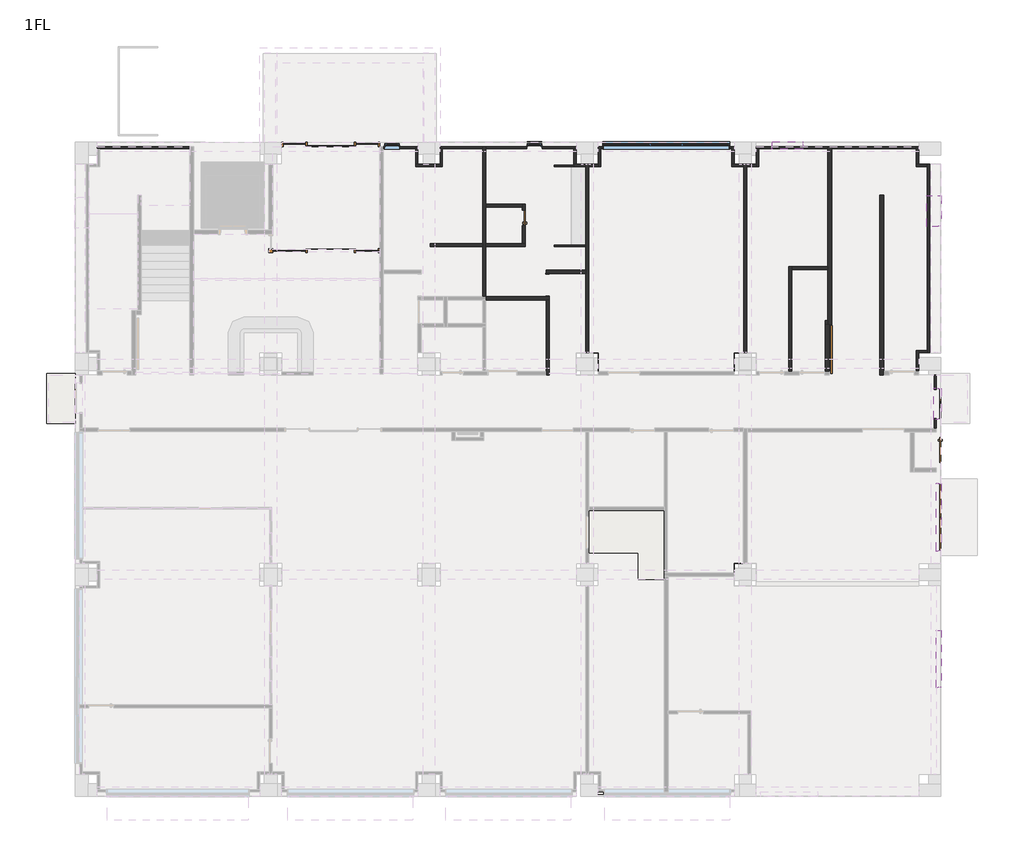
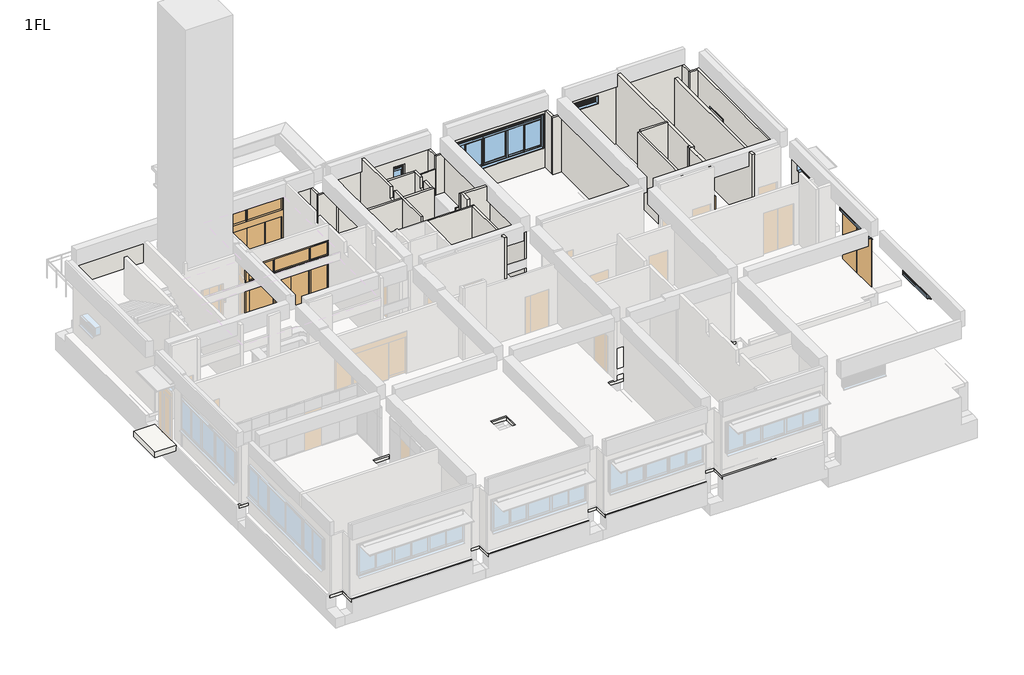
# One storey, part 3 of 7: 39 walls, 8 doors, 8 windows, 2 slabs.
"""IFC4 building model written with IfcOpenShell, lengths in millimetres."""

from ifc_helpers import new_model, si_unit, frame, origin, origin_with_axes, place, context, project, spatial, polyline, outline, extrude, faceted_brep, transform, mapped, element, save
from components import door_1cafa6bb, door_cb1f44da, door_8a3642f0, door_14d6dc4f, door_377da531, door_bdeb8628, sd1a_41ed0b53, sd5_d24b2fea, ag_01_14c91b01, ag_03_a886fbff, ag_04_25b0d088, ag_04_e8160d57, aw4_4580bdda, aw8_d00d551c, aw8_1742ed5c

model = new_model("IFC4")

# Units and contexts
model_context = context("Model", 3, world=origin())
ifc_project = project(units=[si_unit("LENGTHUNIT", "METRE", prefix="MILLI")], contexts=[model_context])

# Site, building, storey
site = spatial("IfcSite", under=ifc_project)
building = spatial("IfcBuilding", under=site)
storey = spatial("IfcBuildingStorey", under=building, Name="1FL", Elevation=0.0)

# Doors
placement = place(None, origin())
door_shape = door_1cafa6bb(model_context)
element("IfcDoor", 1, ObjectType="営_片開き扉 : SD6 950*2685", at=placement, inside=storey, context=model_context, shape_type="MappedRepresentation", body=[
    mapped(door_shape, transform((32335.0, 12730.0, 0.0), x_axis=(0.0, -1.0, 0.0), y_axis=(1.0, 0.0, 0.0), z_axis=(0.0, 0.0, 1.0))),
])
door_2_shape = door_cb1f44da(model_context)
element("IfcDoor", 2, ObjectType="営_片開き扉 : SD7 600*2000", at=placement, inside=storey, context=model_context, shape_type="MappedRepresentation", body=[
    mapped(door_2_shape, transform((16600.0, 21540.0, 0.0), x_axis=(0.0, 1.0, 0.0), y_axis=(-1.0, 0.0, 0.0), z_axis=(0.0, 0.0, 1.0))),
])
door_3_shape = door_8a3642f0(model_context)
element("IfcDoor", 3, ObjectType="営_両開き扉 : SD2 2500*2585", at=placement, inside=storey, context=model_context, shape_type="MappedRepresentation", body=[
    mapped(door_3_shape, transform((32335.0, 10180.0, 0.0), x_axis=(0.0, -1.0, 0.0), y_axis=(1.0, 0.0, 0.0), z_axis=(0.0, 0.0, 1.0))),
])
door_4_shape = door_14d6dc4f(model_context)
element("IfcDoor", 4, ObjectType="営_三方枠 : S1_850*2000", at=placement, inside=storey, context=model_context, shape_type="MappedRepresentation", body=[
    mapped(door_4_shape, transform((17500.0, 18990.25, 0.0), x_axis=(0.0, 1.0, 0.0), y_axis=(-1.0, 0.0, 0.0), z_axis=(0.0, 0.0, 1.0))),
])
door_5_shape = door_377da531(model_context)
element("IfcDoor", 5, ObjectType="営_自動ドア 両引き+ランマ : SSD1a 3600*3100", at=placement, inside=storey, context=model_context, shape_type="MappedRepresentation", body=[
    mapped(door_5_shape, transform((9280.0, 24325.0, 0.0), x_axis=(-1.0, 0.0, 0.0), y_axis=(0.0, -1.0, 0.0), z_axis=(0.0, 0.0, 1.0))),
])
door_6_shape = door_bdeb8628(model_context)
element("IfcDoor", 6, ObjectType="営_自動ドア 両引き+ランマ1b : SSD1b 4005*3100", at=placement, inside=storey, context=model_context, shape_type="MappedRepresentation", body=[
    mapped(door_6_shape, transform((9280.0, 20310.0, 0.0), x_axis=(1.0, 0.0, 0.0), y_axis=(0.0, 1.0, 0.0), z_axis=(0.0, 0.0, 1.0))),
])
sd1a_shape = sd1a_41ed0b53(model_context)
element("IfcDoor", 7, ObjectType="営_親子扉+ランマ : SD1a", at=placement, inside=storey, context=model_context, shape_type="MappedRepresentation", body=[
    mapped(sd1a_shape, transform((32335.0, 14480.0, 0.0), x_axis=(0.0, -1.0, 0.0), y_axis=(1.0, 0.0, 0.0), z_axis=(0.0, 0.0, 1.0))),
])
sd5_shape = sd5_d24b2fea(model_context)
element("IfcDoor", 8, ObjectType="営_随閉扉 B階段 1F : SD5", at=placement, inside=storey, context=model_context, shape_type="MappedRepresentation", body=[
    mapped(sd5_shape, transform((28100.0, 16540.0, 0.0), x_axis=(0.0, -1.0, 0.0), y_axis=(1.0, 0.0, 0.0), z_axis=(0.0, 0.0, 1.0))),
])

# Slabs
element("IfcSlab", 9, ObjectType="(外床)エントランス 300", at=placement, inside=storey, context=model_context, shape_type="SweptSolid", body=[
    extrude(outline(polyline([(-1505.0, 15630.0), (-420.0, 15630.0), (-420.0, 13730.0), (-1505.0, 13730.0), (-1505.0, 15630.0)])), frame((0.0, 0.0, -300.0), z_axis=(0.0, 0.0, 1.0), x_axis=(1.0, 0.0, 0.0)), (0.0, 0.0, 1.0), 300.0),
])
element("IfcSlab", 10, ObjectType="(RC)150", at=placement, inside=storey, context=model_context, shape_type="Brep", body=[
    faceted_brep([(19420.0, 15640.0, -250.0), (19420.0, 15755.0, -250.0), (19420.0, 16225.0, -250.0), (19420.0, 16420.0, -250.0), (19225.0, 16420.0, -250.0), (19000.0, 16420.0, -250.0), (19000.0, 23580.0, -250.0), (19225.0, 23580.0, -250.0), (19420.0, 23580.0, -250.0), (19420.0, 23950.0, -250.0), (19420.0, 24250.0, -250.0), (24580.0, 24250.0, -250.0), (24580.0, 23950.0, -250.0), (24580.0, 23580.0, -250.0), (24775.0, 23580.0, -250.0), (25000.0, 23580.0, -250.0), (25000.0, 16420.0, -250.0), (24775.0, 16420.0, -250.0), (24580.0, 16420.0, -250.0), (24580.0, 16225.0, -250.0), (24580.0, 15755.0, -250.0), (24580.0, 15640.0, -250.0), (19420.0, 16420.0, -100.0), (19420.0, 15640.0, -100.0), (24580.0, 15640.0, -100.0), (24580.0, 16420.0, -100.0), (24775.0, 16420.0, -100.0), (25000.0, 16420.0, -100.0), (25000.0, 23580.0, -100.0), (24775.0, 23580.0, -100.0), (24580.0, 23580.0, -100.0), (24580.0, 23950.0, -100.0), (24580.0, 24250.0, -100.0), (19420.0, 24250.0, -100.0), (19420.0, 23950.0, -100.0), (19420.0, 23580.0, -100.0), (19225.0, 23580.0, -100.0), (19000.0, 23580.0, -100.0), (19000.0, 16420.0, -100.0), (19225.0, 16420.0, -100.0), (25000.0, 16420.0, -160.0), (25000.0, 23580.0, -160.0), (19420.0, 15640.0, -160.0), (24580.0, 15640.0, -160.0), (19000.0, 16420.0, -160.0), (19000.0, 23580.0, -160.0)], [[[0, 1, 2, 3, 4, 5, 6, 7, 8, 9, 10, 11, 12, 13, 14, 15, 16, 17, 18, 19, 20, 21]], [[22, 23, 24, 25, 26, 27, 28, 29, 30, 31, 32, 33, 34, 35, 36, 37, 38, 39]], [[27, 40, 16, 15, 41, 28]], [[23, 42, 0, 21, 43, 24]], [[5, 44, 38, 37, 45, 6]], [[10, 33, 32, 11]], [[22, 3, 2, 1, 0, 42, 23]], [[3, 22, 39, 38, 44, 5, 4]], [[18, 25, 24, 43, 21, 20, 19]], [[25, 18, 17, 16, 40, 27, 26]], [[8, 35, 34, 33, 10, 9]], [[35, 8, 7, 6, 45, 37, 36]], [[13, 30, 29, 28, 41, 15, 14]], [[30, 13, 12, 11, 32, 31]]]),
    faceted_brep([(19000.0, 13500.0, -250.0), (19245.0, 13500.0, -250.0), (24755.0, 13500.0, -250.0), (25175.0, 13500.0, -250.0), (25175.0, 8420.0, -250.0), (24755.0, 8420.0, -250.0), (24580.0, 8420.0, -250.0), (24580.0, 8245.0, -250.0), (24580.0, 7825.0, -250.0), (22175.0, 7825.0, -250.0), (22175.0, 7775.0, -250.0), (22175.0, 5508.0, -250.0), (22175.0, 5158.0, -250.0), (22175.0, 2835.0, -250.0), (22175.0, 2485.0, -250.0), (22175.0, 50.0, -250.0), (22175.0, -335.0, -250.0), (19420.0, -335.0, -250.0), (19420.0, 50.0, -250.0), (19420.0, 420.0, -250.0), (19225.0, 420.0, -250.0), (18755.0, 420.0, -250.0), (18580.0, 420.0, -250.0), (18580.0, 70.0, -250.0), (18580.0, -335.0, -250.0), (13420.0, -335.0, -250.0), (13420.0, 70.0, -250.0), (13420.0, 420.0, -250.0), (13245.0, 420.0, -250.0), (12755.0, 420.0, -250.0), (12580.0, 420.0, -250.0), (12580.0, 70.0, -250.0), (12580.0, -335.0, -250.0), (7420.0, -335.0, -250.0), (7420.0, 70.0, -250.0), (7420.0, 420.0, -250.0), (7245.0, 420.0, -250.0), (6755.0, 420.0, -250.0), (6580.0, 420.0, -250.0), (6580.0, 70.0, -250.0), (6580.0, -335.0, -250.0), (420.0, -335.0, -250.0), (420.0, 70.0, -250.0), (420.0, 420.0, -250.0), (70.0, 420.0, -250.0), (-250.0, 420.0, -250.0), (-250.0, 7580.0, -250.0), (70.0, 7580.0, -250.0), (420.0, 7580.0, -250.0), (420.0, 7755.0, -250.0), (420.0, 8245.0, -250.0), (420.0, 8420.0, -250.0), (70.0, 8420.0, -250.0), (-250.0, 8420.0, -250.0), (-250.0, 13500.0, -250.0), (70.0, 13500.0, -250.0), (6755.0, 13500.0, -250.0), (7245.0, 13500.0, -250.0), (12755.0, 13500.0, -250.0), (13245.0, 13500.0, -250.0), (18755.0, 13500.0, -250.0), (7420.0, 7580.0, -250.0), (7420.0, 7755.0, -250.0), (7420.0, 8245.0, -250.0), (7420.0, 8420.0, -250.0), (7245.0, 8420.0, -250.0), (6755.0, 8420.0, -250.0), (6580.0, 8420.0, -250.0), (6580.0, 8245.0, -250.0), (6580.0, 7755.0, -250.0), (6580.0, 7580.0, -250.0), (6755.0, 7580.0, -250.0), (7245.0, 7580.0, -250.0), (13420.0, 7580.0, -250.0), (13420.0, 7755.0, -250.0), (13420.0, 8245.0, -250.0), (13420.0, 8420.0, -250.0), (13245.0, 8420.0, -250.0), (12755.0, 8420.0, -250.0), (12580.0, 8420.0, -250.0), (12580.0, 8245.0, -250.0), (12580.0, 7755.0, -250.0), (12580.0, 7580.0, -250.0), (12755.0, 7580.0, -250.0), (13245.0, 7580.0, -250.0), (19420.0, 7580.0, -250.0), (19420.0, 7775.0, -250.0), (19420.0, 8245.0, -250.0), (19420.0, 8420.0, -250.0), (19245.0, 8420.0, -250.0), (18755.0, 8420.0, -250.0), (18580.0, 8420.0, -250.0), (18580.0, 8245.0, -250.0), (18580.0, 7755.0, -250.0), (18580.0, 7580.0, -250.0), (18755.0, 7580.0, -250.0), (19225.0, 7580.0, -250.0), (25175.0, 13500.0, -100.0), (25000.0, 13500.0, -100.0), (19000.0, 13500.0, -100.0), (-250.0, 13500.0, -100.0), (-250.0, 8420.0, -100.0), (420.0, 8420.0, -100.0), (420.0, 7580.0, -100.0), (-250.0, 7580.0, -100.0), (-250.0, 420.0, -100.0), (420.0, 420.0, -100.0), (420.0, -335.0, -100.0), (6580.0, -335.0, -100.0), (6580.0, 420.0, -100.0), (7420.0, 420.0, -100.0), (7420.0, -335.0, -100.0), (12580.0, -335.0, -100.0), (12580.0, 420.0, -100.0), (13420.0, 420.0, -100.0), (13420.0, -335.0, -100.0), (18580.0, -335.0, -100.0), (18580.0, 420.0, -100.0), (18755.0, 420.0, -100.0), (19225.0, 420.0, -100.0), (19420.0, 420.0, -100.0), (19420.0, -335.0, -100.0), (22175.0, -335.0, -100.0), (22175.0, -250.0, -100.0), (22175.0, 7825.0, -100.0), (24580.0, 7825.0, -100.0), (24580.0, 8000.0, -100.0), (24580.0, 8420.0, -100.0), (25000.0, 8420.0, -100.0), (25175.0, 8420.0, -100.0), (7420.0, 8420.0, -100.0), (7420.0, 7580.0, -100.0), (6580.0, 7580.0, -100.0), (6580.0, 8420.0, -100.0), (13420.0, 8420.0, -100.0), (13420.0, 7580.0, -100.0), (12580.0, 7580.0, -100.0), (12580.0, 8420.0, -100.0), (19420.0, 8420.0, -100.0), (19420.0, 7580.0, -100.0), (19225.0, 7580.0, -100.0), (18755.0, 7580.0, -100.0), (18580.0, 7580.0, -100.0), (18580.0, 8420.0, -100.0), (25175.0, 13500.0, -160.0), (25175.0, 8420.0, -160.0), (22175.0, 7825.0, -160.0), (24580.0, 7825.0, -160.0), (-250.0, 13500.0, -160.0)], [[[0, 1, 2, 3, 4, 5, 6, 7, 8, 9, 10, 11, 12, 13, 14, 15, 16, 17, 18, 19, 20, 21, 22, 23, 24, 25, 26, 27, 28, 29, 30, 31, 32, 33, 34, 35, 36, 37, 38, 39, 40, 41, 42, 43, 44, 45, 46, 47, 48, 49, 50, 51, 52, 53, 54, 55, 56, 57, 58, 59, 60], [61, 62, 63, 64, 65, 66, 67, 68, 69, 70, 71, 72], [73, 74, 75, 76, 77, 78, 79, 80, 81, 82, 83, 84], [85, 86, 87, 88, 89, 90, 91, 92, 93, 94, 95, 96]], [[97, 98, 99, 100, 101, 102, 103, 104, 105, 106, 107, 108, 109, 110, 111, 112, 113, 114, 115, 116, 117, 118, 119, 120, 121, 122, 123, 124, 125, 126, 127, 128, 129], [130, 131, 132, 133], [134, 135, 136, 137], [138, 139, 140, 141, 142, 143]], [[3, 2, 1, 0, 99, 98, 97, 144]], [[3, 144, 97, 129, 145, 4]], [[124, 146, 9, 8, 147, 125]], [[16, 15, 14, 13, 12, 11, 10, 9, 146, 124, 123, 122]], [[40, 108, 107, 41]], [[111, 33, 32, 112]], [[115, 25, 24, 116]], [[16, 122, 121, 17]], [[100, 148, 54, 53, 101]], [[45, 105, 104, 46]], [[0, 60, 59, 58, 57, 56, 55, 54, 148, 100, 99]], [[110, 35, 34, 33, 111]], [[38, 109, 108, 40, 39]], [[109, 38, 37, 36, 35, 110]], [[114, 27, 26, 25, 115]], [[30, 113, 112, 32, 31]], [[113, 30, 29, 28, 27, 114]], [[120, 19, 18, 17, 121]], [[22, 117, 116, 24, 23]], [[117, 22, 21, 20, 19, 120, 119, 118]], [[106, 43, 42, 41, 107]], [[43, 106, 105, 45, 44]], [[61, 131, 130, 64, 63, 62]], [[131, 61, 72, 71, 70, 132]], [[132, 70, 69, 68, 67, 133]], [[133, 67, 66, 65, 64, 130]], [[73, 135, 134, 76, 75, 74]], [[135, 73, 84, 83, 82, 136]], [[136, 82, 81, 80, 79, 137]], [[137, 79, 78, 77, 76, 134]], [[85, 139, 138, 88, 87, 86]], [[139, 85, 96, 95, 94, 142, 141, 140]], [[142, 94, 93, 92, 91, 143]], [[143, 91, 90, 89, 88, 138]], [[6, 127, 126, 125, 147, 8, 7]], [[127, 6, 5, 4, 145, 129, 128]], [[48, 103, 102, 51, 50, 49]], [[103, 48, 47, 46, 104]], [[51, 102, 101, 53, 52]]]),
])

# Walls
element("IfcWall", 11, ObjectType="(内壁)W4", at=placement, inside=storey, context=model_context, shape_type="Brep", body=[
    faceted_brep([(19060.0, 16420.0, 0.0), (19060.0, 23490.0, 0.0), (19060.0, 23580.0, 0.0), (19060.0, 23580.0, 3100.0), (19060.0, 23490.0, 3100.0), (19060.0, 16420.0, 3100.0), (18940.0, 23580.0, 0.0), (18940.0, 23490.0, 0.0), (18940.0, 19550.0, 0.0), (18940.0, 19430.0, 0.0), (18940.0, 16420.0, 0.0), (18940.0, 16420.0, 3100.0), (18940.0, 19430.0, 3100.0), (18940.0, 19550.0, 3100.0), (18940.0, 23490.0, 3100.0), (18940.0, 23580.0, 3100.0)], [[[0, 1, 2, 3, 4, 5]], [[6, 7, 8, 9, 10, 11, 12, 13, 14, 15]], [[0, 10, 9, 8, 7, 6, 2, 1]], [[10, 0, 5, 11]], [[2, 6, 15, 3]], [[5, 4, 3, 15, 14, 13, 12, 11]]]),
])
element("IfcWall", 12, ObjectType="(内壁)W3", at=placement, inside=storey, context=model_context, shape_type="Brep", body=[
    faceted_brep([(25060.0, 16420.0, 0.0), (25060.0, 23490.0, 0.0), (25060.0, 23580.0, 0.0), (25060.0, 23580.0, 3100.0), (25060.0, 23490.0, 3100.0), (25060.0, 16420.0, 3100.0), (24940.0, 23580.0, 0.0), (24940.0, 23490.0, 0.0), (24940.0, 16420.0, 0.0), (24940.0, 16420.0, 3100.0), (24940.0, 23490.0, 3100.0), (24940.0, 23580.0, 3100.0)], [[[0, 1, 2, 3, 4, 5]], [[6, 7, 8, 9, 10, 11]], [[0, 8, 7, 6, 2, 1]], [[8, 0, 5, 9]], [[2, 6, 11, 3]], [[5, 4, 3, 11, 10, 9]]]),
])
element("IfcWall", 13, ObjectType="(内壁)150_RC", at=placement, inside=storey, context=model_context, shape_type="Brep", body=[
    faceted_brep([(28125.0, 24250.0, 0.0), (28125.0, 19695.0, 0.0), (28125.0, 19575.0, 0.0), (28125.0, 17645.0, 0.0), (28125.0, 17495.0, 0.0), (28125.0, 17495.0, 3850.0), (28125.0, 17645.0, 3850.0), (28125.0, 24250.0, 3850.0), (28275.0, 24250.0, 0.0), (28275.0, 24250.0, 3850.0), (28275.0, 17495.0, 3850.0), (28275.0, 17495.0, 0.0), (28175.0, 17495.0, 0.0), (28175.0, 17495.0, 3850.0)], [[[0, 1, 2, 3, 4, 5, 6, 7]], [[8, 9, 10, 11]], [[4, 3, 2, 1, 0, 8, 11, 12]], [[7, 6, 5, 13, 10, 9]], [[5, 4, 12, 11, 10, 13]], [[0, 7, 9, 8]]]),
])
element("IfcWall", 14, ObjectType="(内壁)150_RC", at=placement, inside=storey, context=model_context, shape_type="SweptSolid", body=[
    extrude(outline(polyline([(28025.0, 17645.0), (28125.0, 17645.0), (28125.0, 17495.0), (28025.0, 17495.0), (28025.0, 17645.0)])), origin_with_axes(), (0.0, 0.0, 1.0), 3850.0),
])
element("IfcWall", 15, ObjectType="(内壁)150_RC", at=placement, inside=storey, context=model_context, shape_type="Brep", body=[
    faceted_brep([(28025.0, 17495.0, 0.0), (28025.0, 15700.0, 0.0), (28025.0, 15700.0, 3850.0), (28025.0, 15825.0, 3850.0), (28025.0, 15825.0, 3150.0), (28025.0, 16175.0, 3150.0), (28025.0, 16175.0, 3850.0), (28025.0, 17495.0, 3850.0), (28175.0, 15700.0, 0.0), (28175.0, 17495.0, 0.0), (28175.0, 17495.0, 3850.0), (28175.0, 16175.0, 3850.0), (28175.0, 16175.0, 3150.0), (28175.0, 15825.0, 3150.0), (28175.0, 15825.0, 3850.0), (28175.0, 15700.0, 3850.0), (28125.0, 17495.0, 0.0), (28125.0, 17495.0, 3850.0)], [[[0, 1, 2, 3, 4, 5, 6, 7]], [[8, 9, 10, 11, 12, 13, 14, 15]], [[1, 0, 16, 9, 8]], [[2, 15, 14, 3]], [[10, 17, 7, 6, 11]], [[0, 7, 17, 10, 9, 16]], [[2, 1, 8, 15]], [[13, 4, 3, 14]], [[4, 13, 12, 5]], [[5, 12, 11, 6]]]),
])
element("IfcWall", 16, ObjectType="(内壁)150_RC", at=placement, inside=storey, context=model_context, shape_type="Brep", body=[
    faceted_brep([(30105.0, 22410.0, 0.0), (30105.0, 15580.0, 0.0), (30105.0, 15580.0, 3920.0), (30105.0, 15825.0, 3920.0), (30105.0, 15825.0, 3150.0), (30105.0, 16175.0, 3150.0), (30105.0, 16175.0, 3920.0), (30105.0, 22410.0, 3920.0), (30255.0, 15580.0, 0.0), (30255.0, 15730.0, 0.0), (30255.0, 22410.0, 0.0), (30255.0, 22410.0, 3920.0), (30255.0, 16175.0, 3920.0), (30255.0, 16175.0, 3150.0), (30255.0, 15825.0, 3150.0), (30255.0, 15825.0, 3920.0), (30255.0, 15580.0, 3920.0), (30255.0, 15580.0, 3850.0)], [[[0, 1, 2, 3, 4, 5, 6, 7]], [[8, 9, 10, 11, 12, 13, 14, 15, 16, 17]], [[1, 0, 10, 9, 8]], [[11, 7, 6, 12]], [[2, 16, 15, 3]], [[0, 7, 11, 10]], [[14, 4, 3, 15]], [[4, 14, 13, 5]], [[5, 13, 12, 6]], [[2, 1, 8, 17, 16]]]),
])
element("IfcWall", 17, ObjectType="(内壁)W4", at=placement, inside=storey, context=model_context, shape_type="Brep", body=[
    faceted_brep([(15040.0, 24250.0, 0.0), (15040.0, 24160.0, 0.0), (15040.0, 20570.0, 0.0), (15040.0, 20450.0, 0.0), (15040.0, 18550.0, 0.0), (15040.0, 18550.0, 3250.0), (15040.0, 18845.0, 3250.0), (15040.0, 18845.0, 3850.0), (15040.0, 20450.0, 3850.0), (15040.0, 20570.0, 3850.0), (15040.0, 21165.0, 3850.0), (15040.0, 21165.0, 3250.0), (15040.0, 21515.0, 3250.0), (15040.0, 21515.0, 3850.0), (15040.0, 24050.0, 3850.0), (15040.0, 24050.0, 3150.0), (15040.0, 24250.0, 3150.0), (15040.0, 24250.0, 3100.0), (15160.0, 18550.0, 0.0), (15160.0, 20450.0, 0.0), (15160.0, 20570.0, 0.0), (15160.0, 21950.0, 0.0), (15160.0, 22070.0, 0.0), (15160.0, 24160.0, 0.0), (15160.0, 24250.0, 0.0), (15160.0, 24250.0, 3100.0), (15160.0, 24250.0, 3150.0), (15160.0, 24050.0, 3150.0), (15160.0, 24050.0, 3850.0), (15160.0, 22070.0, 3850.0), (15160.0, 21950.0, 3850.0), (15160.0, 21515.0, 3850.0), (15160.0, 21515.0, 3250.0), (15160.0, 21165.0, 3250.0), (15160.0, 21165.0, 3850.0), (15160.0, 20570.0, 3850.0), (15160.0, 20450.0, 3850.0), (15160.0, 18845.0, 3850.0), (15160.0, 18845.0, 3250.0), (15160.0, 18550.0, 3250.0)], [[[0, 1, 2, 3, 4, 5, 6, 7, 8, 9, 10, 11, 12, 13, 14, 15, 16, 17]], [[18, 19, 20, 21, 22, 23, 24, 25, 26, 27, 28, 29, 30, 31, 32, 33, 34, 35, 36, 37, 38, 39]], [[4, 3, 2, 1, 0, 24, 23, 22, 21, 20, 19, 18]], [[28, 14, 13, 31, 30, 29]], [[7, 37, 36, 35, 34, 10, 9, 8]], [[24, 0, 17, 16, 26, 25]], [[27, 15, 14, 28]], [[15, 27, 26, 16]], [[38, 6, 5, 39]], [[6, 38, 37, 7]], [[33, 11, 10, 34]], [[11, 33, 32, 12]], [[12, 32, 31, 13]], [[4, 18, 39, 5]]]),
])
element("IfcWall", 18, ObjectType="(内壁)W4", at=placement, inside=storey, context=model_context, shape_type="Brep", body=[
    faceted_brep([(17440.0, 18430.0, 0.0), (17440.0, 15700.0, 0.0), (17440.0, 15580.0, 0.0), (17440.0, 15580.0, 3850.0), (17440.0, 15700.0, 3850.0), (17440.0, 15825.0, 3850.0), (17440.0, 15825.0, 3150.0), (17440.0, 16175.0, 3150.0), (17440.0, 16175.0, 3850.0), (17440.0, 18430.0, 3850.0), (17560.0, 15580.0, 0.0), (17560.0, 18430.0, 0.0), (17560.0, 18430.0, 3850.0), (17560.0, 16175.0, 3850.0), (17560.0, 16175.0, 3150.0), (17560.0, 15825.0, 3150.0), (17560.0, 15825.0, 3850.0), (17560.0, 15580.0, 3850.0)], [[[0, 1, 2, 3, 4, 5, 6, 7, 8, 9]], [[10, 11, 12, 13, 14, 15, 16, 17]], [[2, 1, 0, 11, 10]], [[12, 9, 8, 13]], [[3, 17, 16, 5, 4]], [[0, 9, 12, 11]], [[3, 2, 10, 17]], [[15, 6, 5, 16]], [[6, 15, 14, 7]], [[7, 14, 13, 8]]]),
])
element("IfcWall", 19, ObjectType="(内壁)W4", at=placement, inside=storey, context=model_context, shape_type="SweptSolid", body=[
    extrude(outline(polyline([(0.0, 13040.0), (0.0, 15040.0), (3850.0, 15040.0), (3850.0, 13225.0), (3100.0, 13225.0), (3100.0, 13040.0), (0.0, 13040.0)])), frame((0.0, 20450.0, 0.0), z_axis=(0.0, 1.0, 0.0), x_axis=(0.0, 0.0, 1.0)), (0.0, 0.0, 1.0), 120.0),
])
element("IfcWall", 20, ObjectType="(内壁)W3", at=placement, inside=storey, context=model_context, shape_type="Brep", body=[
    faceted_brep([(16660.0, 20570.0, 3850.0), (16660.0, 20570.0, 0.0), (16660.0, 21240.0, 0.0), (16660.0, 21240.0, 2000.0), (16660.0, 21840.0, 2000.0), (16660.0, 21840.0, 0.0), (16660.0, 22070.0, 0.0), (16660.0, 22070.0, 3850.0), (16660.0, 21515.0, 3850.0), (16660.0, 21515.0, 3250.0), (16660.0, 21165.0, 3250.0), (16660.0, 21165.0, 3850.0), (16540.0, 20570.0, 0.0), (16540.0, 20570.0, 3850.0), (16540.0, 21165.0, 3850.0), (16540.0, 21165.0, 3250.0), (16540.0, 21515.0, 3250.0), (16540.0, 21515.0, 3850.0), (16540.0, 21950.0, 3850.0), (16540.0, 22070.0, 3850.0), (16540.0, 22070.0, 0.0), (16540.0, 21950.0, 0.0), (16540.0, 21840.0, 0.0), (16540.0, 21840.0, 2000.0), (16540.0, 21240.0, 2000.0), (16540.0, 21240.0, 0.0)], [[[0, 1, 2, 3, 4, 5, 6, 7, 8, 9, 10, 11]], [[12, 13, 14, 15, 16, 17, 18, 19, 20, 21, 22, 23, 24, 25]], [[1, 12, 25, 2]], [[20, 6, 5, 22, 21]], [[13, 0, 11, 14]], [[7, 19, 18, 17, 8]], [[1, 0, 13, 12]], [[7, 6, 20, 19]], [[25, 24, 3, 2]], [[23, 22, 5, 4]], [[24, 23, 4, 3]], [[10, 15, 14, 11]], [[15, 10, 9, 16]], [[16, 9, 8, 17]]]),
])
element("IfcWall", 21, ObjectType="(内壁)W3", at=placement, inside=storey, context=model_context, shape_type="SweptSolid", body=[
    extrude(outline(polyline([(15160.0, 22070.0), (16540.0, 22070.0), (16540.0, 21950.0), (15160.0, 21950.0), (15160.0, 22070.0)])), origin_with_axes(), (0.0, 0.0, 1.0), 3850.0),
])
element("IfcWall", 22, ObjectType="(内壁)W4", at=placement, inside=storey, context=model_context, shape_type="Brep", body=[
    faceted_brep([(17440.0, 19430.0, 0.0), (17560.0, 19430.0, 0.0), (18940.0, 19430.0, 0.0), (18940.0, 19430.0, 3100.0), (18775.0, 19430.0, 3100.0), (18775.0, 19430.0, 3850.0), (17440.0, 19430.0, 3850.0), (18940.0, 19550.0, 0.0), (17440.0, 19550.0, 0.0), (17440.0, 19550.0, 3850.0), (18775.0, 19550.0, 3850.0), (18775.0, 19550.0, 3100.0), (18940.0, 19550.0, 3100.0)], [[[0, 1, 2, 3, 4, 5, 6]], [[7, 8, 9, 10, 11, 12]], [[2, 1, 0, 8, 7]], [[9, 6, 5, 10]], [[2, 7, 12, 3]], [[11, 4, 3, 12]], [[4, 11, 10, 5]], [[0, 6, 9, 8]]]),
])
element("IfcWall", 23, ObjectType="(内壁)W3", at=placement, inside=storey, context=model_context, shape_type="Brep", body=[
    faceted_brep([(26640.0, 19695.0, 0.0), (26640.0, 15700.0, 0.0), (26640.0, 15700.0, 3850.0), (26640.0, 15825.0, 3850.0), (26640.0, 15825.0, 3150.0), (26640.0, 16175.0, 3150.0), (26640.0, 16175.0, 3850.0), (26640.0, 19695.0, 3850.0), (26760.0, 15700.0, 0.0), (26760.0, 19575.0, 0.0), (26760.0, 19695.0, 0.0), (26760.0, 19695.0, 3850.0), (26760.0, 16175.0, 3850.0), (26760.0, 16175.0, 3150.0), (26760.0, 15825.0, 3150.0), (26760.0, 15825.0, 3850.0), (26760.0, 15700.0, 3850.0)], [[[0, 1, 2, 3, 4, 5, 6, 7]], [[8, 9, 10, 11, 12, 13, 14, 15, 16]], [[1, 0, 10, 9, 8]], [[11, 7, 6, 12]], [[2, 16, 15, 3]], [[0, 7, 11, 10]], [[2, 1, 8, 16]], [[14, 4, 3, 15]], [[4, 14, 13, 5]], [[5, 13, 12, 6]]]),
])
element("IfcWall", 24, ObjectType="(内壁)W3", at=placement, inside=storey, context=model_context, shape_type="Brep", body=[
    faceted_brep([(26760.0, 19575.0, 0.0), (28125.0, 19575.0, 0.0), (28125.0, 19575.0, 3940.0), (26760.0, 19575.0, 3940.0), (26760.0, 19695.0, 0.0), (26760.0, 19695.0, 3850.0), (26760.0, 19695.0, 3940.0), (28125.0, 19695.0, 3940.0), (28125.0, 19695.0, 0.0)], [[[0, 1, 2, 3]], [[4, 5, 6, 7, 8]], [[1, 0, 4, 8]], [[3, 2, 7, 6]], [[0, 3, 6, 5, 4]], [[2, 1, 8, 7]]]),
])
element("IfcWall", 25, ObjectType="(内壁)120_部屋境界OFF", at=placement, inside=storey, context=model_context, shape_type="Brep", body=[
    faceted_brep([(17560.0, 18550.0, 0.0), (17560.0, 18555.25, 0.0), (17560.0, 18555.25, 2010.0), (17560.0, 19425.25, 2010.0), (17560.0, 19425.25, 0.0), (17560.0, 19430.0, 0.0), (17560.0, 19430.0, 3950.0), (17560.0, 18845.0, 3950.0), (17560.0, 18845.0, 3250.0), (17560.0, 18550.0, 3250.0), (17440.0, 18555.25, 0.0), (17440.0, 18550.0, 0.0), (17440.0, 18550.0, 3250.0), (17440.0, 18845.0, 3250.0), (17440.0, 18845.0, 3950.0), (17440.0, 19430.0, 3950.0), (17440.0, 19430.0, 3850.0), (17440.0, 19430.0, 0.0), (17440.0, 19425.25, 0.0), (17440.0, 19425.25, 2010.0), (17440.0, 18555.25, 2010.0)], [[[0, 1, 2, 3, 4, 5, 6, 7, 8, 9]], [[10, 11, 12, 13, 14, 15, 16, 17, 18, 19, 20]], [[0, 11, 10, 1]], [[5, 4, 18, 17]], [[6, 15, 14, 7]], [[11, 0, 9, 12]], [[6, 5, 17, 16, 15]], [[20, 2, 1, 10]], [[2, 20, 19, 3]], [[3, 19, 18, 4]], [[8, 13, 12, 9]], [[13, 8, 7, 14]]]),
])
element("IfcWall", 26, ObjectType="(内壁)W3", at=placement, inside=storey, context=model_context, shape_type="Brep", body=[
    faceted_brep([(15160.0, 20450.0, 0.0), (16660.0, 20450.0, 0.0), (16660.0, 20450.0, 3850.0), (15160.0, 20450.0, 3850.0), (15160.0, 20570.0, 0.0), (15160.0, 20570.0, 3850.0), (16540.0, 20570.0, 3850.0), (16660.0, 20570.0, 3850.0), (16660.0, 20570.0, 0.0), (16540.0, 20570.0, 0.0)], [[[0, 1, 2, 3]], [[4, 5, 6, 7, 8, 9]], [[1, 0, 4, 9, 8]], [[3, 2, 7, 6, 5]], [[2, 1, 8, 7]], [[0, 3, 5, 4]]]),
])
element("IfcWall", 27, ObjectType="(内壁)ブース壁", at=placement, inside=storey, context=model_context, shape_type="SweptSolid", body=[
    extrude(outline(polyline([(17760.0, 20500.0), (18940.0, 20500.0), (18940.0, 20450.0), (17760.0, 20450.0), (17760.0, 20500.0)])), origin_with_axes(), (0.0, 0.0, 1.0), 2400.0),
])
element("IfcWall", 28, ObjectType="(内壁)ブース壁", at=placement, inside=storey, context=model_context, shape_type="SweptSolid", body=[
    extrude(outline(polyline([(17750.0, 23540.0), (18490.0, 23540.0), (18490.0, 23490.0), (17750.0, 23490.0), (17750.0, 23540.0)])), origin_with_axes(), (0.0, 0.0, 1.0), 2400.0),
])
element("IfcWall", 29, ObjectType="(内壁)W5", at=placement, inside=storey, context=model_context, shape_type="SweptSolid", body=[
    extrude(outline(polyline([(13555.0, 3100.0), (15580.0, 3100.0), (15580.0, 0.0), (15035.0, 0.0), (15035.0, 2570.0), (13925.0, 2570.0), (13925.0, 0.0), (13555.0, 0.0), (13555.0, 3100.0)]), holes=[polyline([(13895.0, 3070.0), (13895.0, 2650.0), (15075.0, 2650.0), (15075.0, 3070.0), (13895.0, 3070.0)])]), frame((32160.0, 0.0, 0.0), z_axis=(1.0, 0.0, 0.0), x_axis=(0.0, 1.0, 0.0)), (0.0, 0.0, 1.0), 90.0),
])
element("IfcWall", 30, ObjectType="(内壁)W5", at=placement, inside=storey, context=model_context, shape_type="Brep", body=[
    faceted_brep([(3925.0, 24250.0, 0.0), (420.0, 24250.0, 0.0), (420.0, 24250.0, 3100.0), (3925.0, 24250.0, 3100.0), (3925.0, 24160.0, 0.0), (3925.0, 24160.0, 3100.0), (510.0, 24160.0, 3100.0), (420.0, 24160.0, 3100.0), (420.0, 24160.0, 0.0), (510.0, 24160.0, 0.0)], [[[0, 1, 2, 3]], [[4, 5, 6, 7, 8, 9]], [[1, 0, 4, 9, 8]], [[3, 2, 7, 6, 5]], [[0, 3, 5, 4]], [[2, 1, 8, 7]]]),
])
element("IfcWall", 31, ObjectType="(内壁)W5", at=placement, inside=storey, context=model_context, shape_type="Brep", body=[
    faceted_brep([(13420.0, 24250.0, 0.0), (13420.0, 24250.0, 3100.0), (15040.0, 24250.0, 3100.0), (15040.0, 24250.0, 0.0), (13420.0, 24160.0, 3100.0), (13420.0, 24160.0, 0.0), (13510.0, 24160.0, 0.0), (15040.0, 24160.0, 0.0), (15040.0, 24160.0, 3100.0), (13510.0, 24160.0, 3100.0)], [[[0, 1, 2, 3]], [[4, 5, 6, 7, 8, 9]], [[5, 0, 3, 7, 6]], [[1, 4, 9, 8, 2]], [[1, 0, 5, 4]], [[3, 2, 8, 7]]]),
    faceted_brep([(18580.0, 24250.0, 3100.0), (18580.0, 24250.0, 0.0), (17290.0, 24250.0, 0.0), (17290.0, 24250.0, 2720.0), (16710.0, 24250.0, 2720.0), (16710.0, 24250.0, 0.0), (15160.0, 24250.0, 0.0), (15160.0, 24250.0, 3100.0), (18580.0, 24160.0, 0.0), (18580.0, 24160.0, 3100.0), (18490.0, 24160.0, 3100.0), (15160.0, 24160.0, 3100.0), (15160.0, 24160.0, 0.0), (16710.0, 24160.0, 0.0), (16710.0, 24160.0, 2720.0), (17290.0, 24160.0, 2720.0), (17290.0, 24160.0, 0.0), (18490.0, 24160.0, 0.0)], [[[0, 1, 2, 3, 4, 5, 6, 7]], [[8, 9, 10, 11, 12, 13, 14, 15, 16, 17]], [[1, 8, 17, 16, 2]], [[5, 13, 12, 6]], [[9, 0, 7, 11, 10]], [[1, 0, 9, 8]], [[4, 14, 13, 5]], [[15, 3, 2, 16]], [[14, 4, 3, 15]], [[7, 6, 12, 11]]]),
])
element("IfcWall", 32, ObjectType="(内壁)W5", at=placement, inside=storey, context=model_context, shape_type="Brep", body=[
    faceted_brep([(13420.0, 24160.0, 0.0), (13420.0, 23580.0, 0.0), (13420.0, 23490.0, 0.0), (13420.0, 23490.0, 3100.0), (13420.0, 23580.0, 3100.0), (13420.0, 24160.0, 3100.0), (13510.0, 24160.0, 0.0), (13510.0, 24160.0, 3100.0), (13510.0, 23490.0, 3100.0), (13510.0, 23490.0, 0.0)], [[[0, 1, 2, 3, 4, 5]], [[6, 7, 8, 9]], [[2, 1, 0, 6, 9]], [[5, 4, 3, 8, 7]], [[0, 5, 7, 6]], [[3, 2, 9, 8]]]),
])
element("IfcWall", 33, ObjectType="(内壁)W5", at=placement, inside=storey, context=model_context, shape_type="Brep", body=[
    faceted_brep([(13420.0, 23580.0, 0.0), (12580.0, 23580.0, 0.0), (12490.0, 23580.0, 0.0), (12490.0, 23580.0, 3100.0), (12580.0, 23580.0, 3100.0), (13420.0, 23580.0, 3100.0), (13420.0, 23490.0, 0.0), (13420.0, 23490.0, 3100.0), (12490.0, 23490.0, 3100.0), (12490.0, 23490.0, 0.0)], [[[0, 1, 2, 3, 4, 5]], [[6, 7, 8, 9]], [[2, 1, 0, 6, 9]], [[5, 4, 3, 8, 7]], [[0, 5, 7, 6]], [[3, 2, 9, 8]]]),
])
element("IfcWall", 34, ObjectType="(内壁)W5", at=placement, inside=storey, context=model_context, shape_type="Brep", body=[
    faceted_brep([(12580.0, 23580.0, 0.0), (12580.0, 24250.0, 0.0), (12580.0, 24250.0, 3100.0), (12580.0, 23580.0, 3100.0), (12490.0, 23580.0, 0.0), (12490.0, 23580.0, 3100.0), (12490.0, 24160.0, 3100.0), (12490.0, 24250.0, 3100.0), (12490.0, 24250.0, 0.0), (12490.0, 24160.0, 0.0)], [[[0, 1, 2, 3]], [[4, 5, 6, 7, 8, 9]], [[1, 0, 4, 9, 8]], [[3, 2, 7, 6, 5]], [[0, 3, 5, 4]], [[2, 1, 8, 7]]]),
])
element("IfcWall", 35, ObjectType="(内壁)W5", at=placement, inside=storey, context=model_context, shape_type="SweptSolid", body=[
    extrude(outline(polyline([(0.0, 11260.0), (0.0, 12490.0), (3100.0, 12490.0), (3100.0, 11260.0), (0.0, 11260.0)]), holes=[polyline([(2795.0, 11890.0), (40.0, 11890.0), (40.0, 11310.0), (2795.0, 11310.0), (2795.0, 11890.0)])]), frame((0.0, 24160.0, 0.0), z_axis=(0.0, 1.0, 0.0), x_axis=(0.0, 0.0, 1.0)), (0.0, 0.0, 1.0), 90.0),
])
element("IfcWall", 36, ObjectType="(内壁)W5", at=placement, inside=storey, context=model_context, shape_type="Brep", body=[
    faceted_brep([(19420.0, 24250.0, 0.0), (19420.0, 23580.0, 0.0), (19420.0, 23490.0, 0.0), (19420.0, 23490.0, 3100.0), (19420.0, 23580.0, 3100.0), (19420.0, 24250.0, 3100.0), (19510.0, 24250.0, 0.0), (19510.0, 24250.0, 3100.0), (19510.0, 23490.0, 3100.0), (19510.0, 23490.0, 0.0)], [[[0, 1, 2, 3, 4, 5]], [[6, 7, 8, 9]], [[2, 1, 0, 6, 9]], [[5, 4, 3, 8, 7]], [[0, 5, 7, 6]], [[3, 2, 9, 8]]]),
])
element("IfcWall", 37, ObjectType="(内壁)W5", at=placement, inside=storey, context=model_context, shape_type="Brep", body=[
    faceted_brep([(19420.0, 23580.0, 3100.0), (19420.0, 23580.0, 0.0), (19060.0, 23580.0, 0.0), (19060.0, 23580.0, 3100.0), (19420.0, 23490.0, 0.0), (19420.0, 23490.0, 3100.0), (19060.0, 23490.0, 3100.0), (19060.0, 23490.0, 0.0)], [[[0, 1, 2, 3]], [[4, 5, 6, 7]], [[1, 4, 7, 2]], [[5, 0, 3, 6]], [[1, 0, 5, 4]], [[3, 2, 7, 6]]]),
    faceted_brep([(18490.0, 23580.0, 0.0), (18490.0, 23580.0, 3100.0), (18580.0, 23580.0, 3100.0), (18940.0, 23580.0, 3100.0), (18940.0, 23580.0, 0.0), (18580.0, 23580.0, 0.0), (18490.0, 23490.0, 3100.0), (18490.0, 23490.0, 0.0), (18940.0, 23490.0, 0.0), (18940.0, 23490.0, 3100.0)], [[[0, 1, 2, 3, 4, 5]], [[6, 7, 8, 9]], [[7, 0, 5, 4, 8]], [[1, 6, 9, 3, 2]], [[1, 0, 7, 6]], [[4, 3, 9, 8]]]),
])
element("IfcWall", 38, ObjectType="(内壁)W5", at=placement, inside=storey, context=model_context, shape_type="SweptSolid", body=[
    extrude(outline(polyline([(18580.0, 24160.0), (18580.0, 23580.0), (18490.0, 23580.0), (18490.0, 24160.0), (18580.0, 24160.0)])), origin_with_axes(), (0.0, 0.0, 1.0), 3100.0),
])
element("IfcWall", 39, ObjectType="(内壁)W5", at=placement, inside=storey, context=model_context, shape_type="Brep", body=[
    faceted_brep([(32000.0, 16420.0, 0.0), (32000.0, 23580.0, 0.0), (32000.0, 23580.0, 3100.0), (32000.0, 16420.0, 3100.0), (31910.0, 16420.0, 0.0), (31910.0, 16420.0, 3100.0), (31910.0, 16510.0, 3100.0), (31910.0, 23490.0, 3100.0), (31910.0, 23580.0, 3100.0), (31910.0, 23580.0, 0.0), (31910.0, 23490.0, 0.0), (31910.0, 16510.0, 0.0)], [[[0, 1, 2, 3]], [[4, 5, 6, 7, 8, 9, 10, 11]], [[1, 0, 4, 11, 10, 9]], [[3, 2, 8, 7, 6, 5]], [[2, 1, 9, 8]], [[0, 3, 5, 4]]]),
])
element("IfcWall", 40, ObjectType="(内壁)W5", at=placement, inside=storey, context=model_context, shape_type="Brep", body=[
    faceted_brep([(31910.0, 23580.0, 0.0), (31580.0, 23580.0, 0.0), (31490.0, 23580.0, 0.0), (31490.0, 23580.0, 3100.0), (31580.0, 23580.0, 3100.0), (31910.0, 23580.0, 3100.0), (31910.0, 23490.0, 0.0), (31910.0, 23490.0, 3100.0), (31490.0, 23490.0, 3100.0), (31490.0, 23490.0, 0.0)], [[[0, 1, 2, 3, 4, 5]], [[6, 7, 8, 9]], [[2, 1, 0, 6, 9]], [[5, 4, 3, 8, 7]], [[0, 5, 7, 6]], [[3, 2, 9, 8]]]),
])
element("IfcWall", 41, ObjectType="(内壁)W5", at=placement, inside=storey, context=model_context, shape_type="SweptSolid", body=[
    extrude(outline(polyline([(31580.0, 24250.0), (31580.0, 23580.0), (31490.0, 23580.0), (31490.0, 24250.0), (31580.0, 24250.0)])), origin_with_axes(), (0.0, 0.0, 1.0), 3100.0),
])
element("IfcWall", 42, ObjectType="(内壁)W5", at=placement, inside=storey, context=model_context, shape_type="Brep", body=[
    faceted_brep([(31490.0, 24250.0, 0.0), (25420.0, 24250.0, 0.0), (25420.0, 24250.0, 3150.0), (31490.0, 24250.0, 3150.0), (31490.0, 24250.0, 3100.0), (27190.0, 24250.0, 2515.0), (27190.0, 24250.0, 2935.0), (26010.0, 24250.0, 2935.0), (26010.0, 24250.0, 2515.0), (25420.0, 24160.0, 0.0), (25510.0, 24160.0, 0.0), (31490.0, 24160.0, 0.0), (31490.0, 24160.0, 3150.0), (25420.0, 24160.0, 3150.0), (25420.0, 24160.0, 3100.0), (27190.0, 24160.0, 2935.0), (27190.0, 24160.0, 2515.0), (26010.0, 24160.0, 2515.0), (26010.0, 24160.0, 2935.0)], [[[0, 1, 2, 3, 4], [5, 6, 7, 8]], [[9, 10, 11, 12, 13, 14], [15, 16, 17, 18]], [[1, 0, 11, 10, 9]], [[3, 2, 13, 12]], [[0, 4, 3, 12, 11]], [[2, 1, 9, 14, 13]], [[15, 6, 5, 16]], [[17, 8, 7, 18]], [[16, 5, 8, 17]], [[6, 15, 18, 7]]]),
])
element("IfcWall", 43, ObjectType="(内壁)W5", at=placement, inside=storey, context=model_context, shape_type="Brep", body=[
    faceted_brep([(25420.0, 24160.0, 0.0), (25420.0, 23580.0, 0.0), (25420.0, 23490.0, 0.0), (25420.0, 23490.0, 3100.0), (25420.0, 23580.0, 3100.0), (25420.0, 24160.0, 3100.0), (25510.0, 24160.0, 0.0), (25510.0, 24160.0, 3100.0), (25510.0, 23490.0, 3100.0), (25510.0, 23490.0, 0.0)], [[[0, 1, 2, 3, 4, 5]], [[6, 7, 8, 9]], [[2, 1, 0, 6, 9]], [[5, 4, 3, 8, 7]], [[0, 5, 7, 6]], [[3, 2, 9, 8]]]),
])
element("IfcWall", 44, ObjectType="(内壁)W5", at=placement, inside=storey, context=model_context, shape_type="Brep", body=[
    faceted_brep([(25420.0, 23580.0, 3100.0), (25420.0, 23580.0, 0.0), (25060.0, 23580.0, 0.0), (25060.0, 23580.0, 3100.0), (25420.0, 23490.0, 0.0), (25420.0, 23490.0, 3100.0), (25060.0, 23490.0, 3100.0), (25060.0, 23490.0, 0.0)], [[[0, 1, 2, 3]], [[4, 5, 6, 7]], [[1, 4, 7, 2]], [[5, 0, 3, 6]], [[1, 0, 5, 4]], [[3, 2, 7, 6]]]),
    faceted_brep([(24490.0, 23580.0, 0.0), (24490.0, 23580.0, 3100.0), (24580.0, 23580.0, 3100.0), (24940.0, 23580.0, 3100.0), (24940.0, 23580.0, 0.0), (24580.0, 23580.0, 0.0), (24490.0, 23490.0, 3100.0), (24490.0, 23490.0, 0.0), (24940.0, 23490.0, 0.0), (24940.0, 23490.0, 3100.0)], [[[0, 1, 2, 3, 4, 5]], [[6, 7, 8, 9]], [[7, 0, 5, 4, 8]], [[1, 6, 9, 3, 2]], [[1, 0, 7, 6]], [[4, 3, 9, 8]]]),
])
element("IfcWall", 45, ObjectType="(内壁)W5", at=placement, inside=storey, context=model_context, shape_type="SweptSolid", body=[
    extrude(outline(polyline([(24580.0, 24250.0), (24580.0, 23580.0), (24490.0, 23580.0), (24490.0, 24250.0), (24580.0, 24250.0)])), origin_with_axes(), (0.0, 0.0, 1.0), 3100.0),
])
element("IfcWall", 46, ObjectType="(内壁)W5", at=placement, inside=storey, context=model_context, shape_type="SweptSolid", body=[
    extrude(outline(polyline([(0.0, 19510.0), (0.0, 24490.0), (3100.0, 24490.0), (3100.0, 19510.0), (0.0, 19510.0)]), holes=[polyline([(2920.0, 24410.0), (1065.0, 24410.0), (1065.0, 19590.0), (2920.0, 19590.0), (2920.0, 24410.0)])]), frame((0.0, 24160.0, 0.0), z_axis=(0.0, 1.0, 0.0), x_axis=(0.0, 0.0, 1.0)), (0.0, 0.0, 1.0), 90.0),
])
element("IfcWall", 47, ObjectType="(内壁)W5", at=placement, inside=storey, context=model_context, shape_type="Brep", body=[
    faceted_brep([(31580.0, 15730.0, 0.0), (31580.0, 16420.0, 0.0), (31580.0, 16510.0, 0.0), (31580.0, 16510.0, 3100.0), (31580.0, 16420.0, 3100.0), (31580.0, 15730.0, 3100.0), (31490.0, 15730.0, 0.0), (31490.0, 15730.0, 3100.0), (31490.0, 16510.0, 3100.0), (31490.0, 16510.0, 0.0)], [[[0, 1, 2, 3, 4, 5]], [[6, 7, 8, 9]], [[2, 1, 0, 6, 9]], [[5, 4, 3, 8, 7]], [[3, 2, 9, 8]], [[0, 5, 7, 6]]]),
])
element("IfcWall", 48, ObjectType="(内壁)W5", at=placement, inside=storey, context=model_context, shape_type="SweptSolid", body=[
    extrude(outline(polyline([(31910.0, 16420.0), (31580.0, 16420.0), (31580.0, 16510.0), (31910.0, 16510.0), (31910.0, 16420.0)])), origin_with_axes(), (0.0, 0.0, 1.0), 3100.0),
])
element("IfcWall", 49, ObjectType="(内壁)W4", at=placement, inside=storey, context=model_context, shape_type="Brep", body=[
    faceted_brep([(15160.0, 18430.0, 0.0), (17440.0, 18430.0, 0.0), (17560.0, 18430.0, 0.0), (17560.0, 18430.0, 3850.0), (17440.0, 18430.0, 3850.0), (15160.0, 18430.0, 3850.0), (17560.0, 18550.0, 0.0), (17440.0, 18550.0, 0.0), (15160.0, 18550.0, 0.0), (15160.0, 18550.0, 3250.0), (17440.0, 18550.0, 3250.0), (17560.0, 18550.0, 3250.0), (17560.0, 18495.0, 3850.0), (15160.0, 18495.0, 3850.0), (17560.0, 18495.0, 3250.0), (15160.0, 18495.0, 3250.0)], [[[0, 1, 2, 3, 4, 5]], [[6, 7, 8, 9, 10, 11]], [[2, 1, 0, 8, 7, 6]], [[5, 4, 3, 12, 13]], [[3, 2, 6, 11, 14, 12]], [[14, 15, 13, 12]], [[15, 14, 11, 10, 9]], [[0, 5, 13, 15, 9, 8]]]),
])

# Windows
ag_01_shape = ag_01_14c91b01(model_context)
element("IfcWindow", 50, ObjectType="営_単窓_ガラリ : AG-01", at=placement, inside=storey, context=model_context, shape_type="MappedRepresentation", body=[
    mapped(ag_01_shape, transform((32335.0, 4800.0, 1400.0), x_axis=(0.0, -1.0, 0.0), y_axis=(1.0, 0.0, 0.0), z_axis=(0.0, 0.0, 1.0))),
])
ag_03_shape = ag_03_a886fbff(model_context)
element("IfcWindow", 51, ObjectType="営_単窓_ガラリ : AG-03", at=placement, inside=storey, context=model_context, shape_type="MappedRepresentation", body=[
    mapped(ag_03_shape, transform((32335.0, 10180.0, 1500.0), x_axis=(0.0, -1.0, 0.0), y_axis=(1.0, 0.0, 0.0), z_axis=(0.0, 0.0, 1.0))),
])
ag_04_shape = ag_04_25b0d088(model_context)
element("IfcWindow", 52, ObjectType="営_単窓_ガラリ : AG-04", at=placement, inside=storey, context=model_context, shape_type="MappedRepresentation", body=[
    mapped(ag_04_shape, transform((32335.0, 14485.0, 1485.0), x_axis=(0.0, -1.0, 0.0), y_axis=(1.0, 0.0, 0.0), z_axis=(0.0, 0.0, 1.0))),
])
element("IfcWindow", 53, ObjectType="営_単窓_ガラリ : AG-04", at=placement, inside=storey, context=model_context, shape_type="MappedRepresentation", body=[
    mapped(ag_04_shape, transform((26600.0, 24335.0, 1350.0), x_axis=(1.0, 0.0, 0.0), y_axis=(0.0, 1.0, 0.0), z_axis=(0.0, 0.0, 1.0))),
])
ag_04_2_shape = ag_04_e8160d57(model_context)
element("IfcWindow", 54, ObjectType="営_単窓_ガラリ : AG-04", at=placement, inside=storey, context=model_context, shape_type="MappedRepresentation", body=[
    mapped(ag_04_2_shape, transform((32335.0, 21800.0, 200.0), x_axis=(0.0, -1.0, 0.0), y_axis=(1.0, 0.0, 0.0), z_axis=(0.0, 0.0, 1.0))),
])
aw4_shape = aw4_4580bdda(model_context)
element("IfcWindow", 55, ObjectType="営_連段窓_引違い+FIX/ガラリ : AW4", at=placement, inside=storey, context=model_context, shape_type="MappedRepresentation", body=[
    mapped(aw4_shape, transform((22000.0, 24335.0, 0.0), x_axis=(1.0, 0.0, 0.0), y_axis=(0.0, 1.0, 0.0), z_axis=(0.0, 0.0, 1.0))),
])
aw8_shape = aw8_d00d551c(model_context)
element("IfcWindow", 56, ObjectType="営_段窓_FIX/ガラリ : AW8", at=placement, inside=storey, context=model_context, shape_type="MappedRepresentation", body=[
    mapped(aw8_shape, transform((17000.0, 24285.0, 0.0), x_axis=(-1.0, 0.0, 0.0), y_axis=(0.0, -1.0, 0.0), z_axis=(0.0, 0.0, 1.0))),
])
aw8_2_shape = aw8_1742ed5c(model_context)
element("IfcWindow", 57, ObjectType="営_段窓_FIX/ガラリ : AW8", at=placement, inside=storey, context=model_context, shape_type="MappedRepresentation", body=[
    mapped(aw8_2_shape, transform((11600.0, 24285.0, 75.0), x_axis=(1.0, 0.0, 0.0), y_axis=(0.0, 1.0, 0.0), z_axis=(0.0, 0.0, 1.0))),
])

save(model, "model.ifc")
